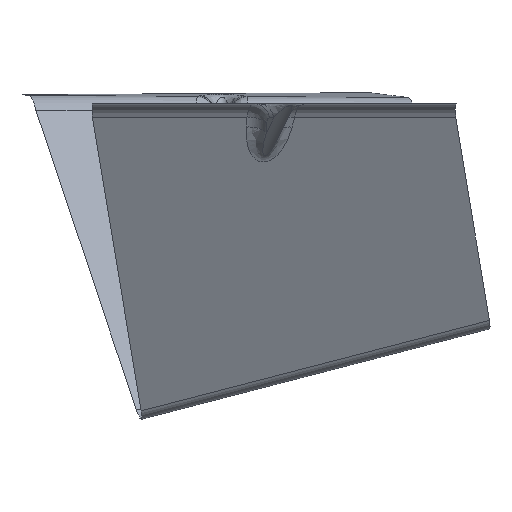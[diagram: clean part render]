
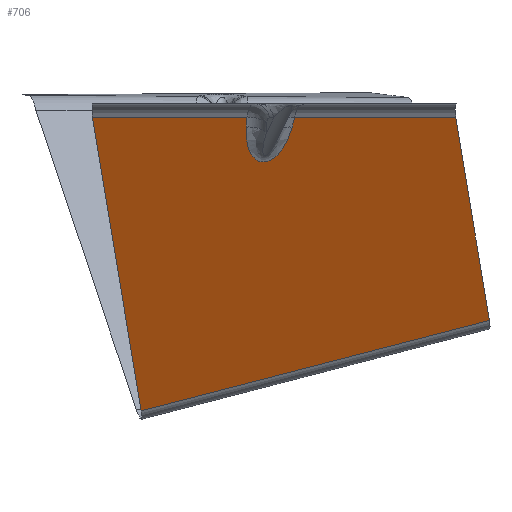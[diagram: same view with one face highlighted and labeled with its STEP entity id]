
A CAD part, left-side view. The second image highlights one B-rep face of the part: STEP entity #706.
In plain terms, the highlighted planar face has unit normal (-0.83, -0.249, -0.5).
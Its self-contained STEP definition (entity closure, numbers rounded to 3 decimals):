
#251=CARTESIAN_POINT('Vertex',(-90.625,7.583,-1.15)) ;
#274=CARTESIAN_POINT('Line Origine',(-72.203,9.747,-32.789)) ;
#278=CARTESIAN_POINT('Vertex',(-89.081,7.764,-3.801)) ;
#591=CARTESIAN_POINT('Control Point',(-85.289,-4.876,-3.801)) ;
#592=CARTESIAN_POINT('Control Point',(-85.077,-4.769,-4.206)) ;
#593=CARTESIAN_POINT('Control Point',(-84.868,-4.652,-4.611)) ;
#594=CARTESIAN_POINT('Control Point',(-84.663,-4.525,-5.016)) ;
#595=CARTESIAN_POINT('Control Point',(-84.084,-4.129,-6.173)) ;
#596=CARTESIAN_POINT('Control Point',(-83.538,-3.64,-7.321)) ;
#597=CARTESIAN_POINT('Control Point',(-83.201,-3.281,-8.059)) ;
#598=CARTESIAN_POINT('Control Point',(-82.75,-2.701,-9.097)) ;
#599=CARTESIAN_POINT('Control Point',(-82.355,-1.994,-10.103)) ;
#600=CARTESIAN_POINT('Control Point',(-82.245,-1.775,-10.396)) ;
#601=CARTESIAN_POINT('Control Point',(-82.055,-1.348,-10.923)) ;
#602=CARTESIAN_POINT('Control Point',(-81.893,-0.87,-11.43)) ;
#603=CARTESIAN_POINT('Control Point',(-81.826,-0.641,-11.655)) ;
#604=CARTESIAN_POINT('Control Point',(-81.72,-0.207,-12.046)) ;
#605=CARTESIAN_POINT('Control Point',(-81.647,0.276,-12.409)) ;
#606=CARTESIAN_POINT('Control Point',(-81.622,0.501,-12.562)) ;
#607=CARTESIAN_POINT('Control Point',(-81.587,1.013,-12.874)) ;
#608=CARTESIAN_POINT('Control Point',(-81.606,1.584,-13.128)) ;
#609=CARTESIAN_POINT('Control Point',(-81.635,1.913,-13.243)) ;
#610=CARTESIAN_POINT('Control Point',(-81.724,2.48,-13.376)) ;
#611=CARTESIAN_POINT('Control Point',(-81.882,3.056,-13.402)) ;
#612=CARTESIAN_POINT('Control Point',(-81.955,3.282,-13.393)) ;
#613=CARTESIAN_POINT('Control Point',(-82.179,3.881,-13.32)) ;
#614=CARTESIAN_POINT('Control Point',(-82.454,4.415,-13.129)) ;
#615=CARTESIAN_POINT('Control Point',(-82.64,4.719,-12.972)) ;
#616=CARTESIAN_POINT('Control Point',(-82.968,5.19,-12.662)) ;
#617=CARTESIAN_POINT('Control Point',(-83.303,5.582,-12.3)) ;
#618=CARTESIAN_POINT('Control Point',(-83.447,5.736,-12.14)) ;
#619=CARTESIAN_POINT('Control Point',(-83.772,6.061,-11.762)) ;
#620=CARTESIAN_POINT('Control Point',(-84.094,6.334,-11.362)) ;
#621=CARTESIAN_POINT('Control Point',(-84.274,6.473,-11.134)) ;
#622=CARTESIAN_POINT('Control Point',(-84.679,6.761,-10.605)) ;
#623=CARTESIAN_POINT('Control Point',(-85.078,6.993,-10.059)) ;
#624=CARTESIAN_POINT('Control Point',(-85.299,7.108,-9.749)) ;
#625=CARTESIAN_POINT('Control Point',(-85.791,7.337,-9.047)) ;
#626=CARTESIAN_POINT('Control Point',(-86.273,7.505,-8.332)) ;
#627=CARTESIAN_POINT('Control Point',(-86.537,7.583,-7.931)) ;
#628=CARTESIAN_POINT('Control Point',(-87.224,7.747,-6.874)) ;
#629=CARTESIAN_POINT('Control Point',(-87.89,7.816,-5.804)) ;
#630=CARTESIAN_POINT('Control Point',(-88.295,7.828,-5.138)) ;
#631=CARTESIAN_POINT('Control Point',(-88.692,7.81,-4.47)) ;
#632=CARTESIAN_POINT('Control Point',(-89.081,7.764,-3.801)) ;
#633=CARTESIAN_POINT('Vertex',(-85.289,-4.876,-3.801)) ;
#651=CARTESIAN_POINT('Axis2P3D Location',(-40.373,-12.112,-74.717)) ;
#656=CARTESIAN_POINT('Line Origine',(-85.984,-5.225,-2.476)) ;
#660=CARTESIAN_POINT('Vertex',(-86.678,-5.574,-1.15)) ;
#663=CARTESIAN_POINT('Line Origine',(-97.001,28.838,-1.15)) ;
#667=CARTESIAN_POINT('Vertex',(-103.378,50.093,-1.15)) ;
#670=CARTESIAN_POINT('Line Origine',(-77.033,43.395,-41.523)) ;
#674=CARTESIAN_POINT('Vertex',(-50.688,36.697,-81.896)) ;
#677=CARTESIAN_POINT('Line Origine',(-43.807,-11.239,-69.454)) ;
#681=CARTESIAN_POINT('Vertex',(-36.926,-59.174,-57.011)) ;
#684=CARTESIAN_POINT('Line Origine',(-55.152,-54.541,-29.081)) ;
#688=CARTESIAN_POINT('Vertex',(-73.378,-49.907,-1.15)) ;
#691=CARTESIAN_POINT('Line Origine',(-80.028,-27.74,-1.15)) ;
#275=DIRECTION('Vector Direction',(0.502,0.059,-0.863)) ;
#652=DIRECTION('Axis2P3D Direction',(0.83,0.249,0.5)) ;
#653=DIRECTION('Axis2P3D XDirection',(0.541,-0.138,-0.83)) ;
#657=DIRECTION('Vector Direction',(-0.452,-0.227,0.863)) ;
#664=DIRECTION('Vector Direction',(0.287,-0.958,0.)) ;
#671=DIRECTION('Vector Direction',(0.541,-0.138,-0.83)) ;
#678=DIRECTION('Vector Direction',(0.138,-0.959,0.249)) ;
#685=DIRECTION('Vector Direction',(-0.541,0.138,0.83)) ;
#692=DIRECTION('Vector Direction',(0.287,-0.958,0.)) ;
#654=AXIS2_PLACEMENT_3D('Plane Axis2P3D',#651,#652,#653) ;
#697=ORIENTED_EDGE('',*,*,#662,.T.) ;
#698=ORIENTED_EDGE('',*,*,#635,.T.) ;
#699=ORIENTED_EDGE('',*,*,#280,.T.) ;
#700=ORIENTED_EDGE('',*,*,#669,.F.) ;
#701=ORIENTED_EDGE('',*,*,#676,.T.) ;
#702=ORIENTED_EDGE('',*,*,#683,.T.) ;
#703=ORIENTED_EDGE('',*,*,#690,.T.) ;
#704=ORIENTED_EDGE('',*,*,#695,.F.) ;
#276=VECTOR('Line Direction',#275,1.) ;
#658=VECTOR('Line Direction',#657,1.) ;
#665=VECTOR('Line Direction',#664,1.) ;
#672=VECTOR('Line Direction',#671,1.) ;
#679=VECTOR('Line Direction',#678,1.) ;
#686=VECTOR('Line Direction',#685,1.) ;
#693=VECTOR('Line Direction',#692,1.) ;
#706=ADVANCED_FACE('Extract.1',(#705),#655,.F.) ;
#590=B_SPLINE_CURVE_WITH_KNOTS('',5,(#591,#592,#593,#594,#595,#596,#597,#598,#599,#600,#601,#602,#603,#604,#605,#606,#607,#608,#609,#610,#611,#612,#613,#614,#615,#616,#617,#618,#619,#620,#621,#622,#623,#624,#625,#626,#627,#628,#629,#630,#631,#632),.UNSPECIFIED.,.F.,.U.,(6,3,3,3,3,3,3,3,3,3,3,3,3,6),(23.574,26.702,32.538,34.97,36.986,38.583,40.45,41.686,43.807,45.387,47.39,49.935,53.103,58.265),.UNSPECIFIED.) ;
#280=EDGE_CURVE('',#279,#252,#277,.F.) ;
#635=EDGE_CURVE('',#634,#279,#590,.T.) ;
#662=EDGE_CURVE('',#661,#634,#659,.F.) ;
#669=EDGE_CURVE('',#668,#252,#666,.T.) ;
#676=EDGE_CURVE('',#668,#675,#673,.T.) ;
#683=EDGE_CURVE('',#675,#682,#680,.T.) ;
#690=EDGE_CURVE('',#682,#689,#687,.T.) ;
#695=EDGE_CURVE('',#661,#689,#694,.T.) ;
#696=EDGE_LOOP('',(#697,#698,#699,#700,#701,#702,#703,#704)) ;
#705=FACE_OUTER_BOUND('',#696,.T.) ;
#277=LINE('Line',#274,#276) ;
#659=LINE('Line',#656,#658) ;
#666=LINE('Line',#663,#665) ;
#673=LINE('Line',#670,#672) ;
#680=LINE('Line',#677,#679) ;
#687=LINE('Line',#684,#686) ;
#694=LINE('Line',#691,#693) ;
#655=PLANE('',#654) ;
#252=VERTEX_POINT('',#251) ;
#279=VERTEX_POINT('',#278) ;
#634=VERTEX_POINT('',#633) ;
#661=VERTEX_POINT('',#660) ;
#668=VERTEX_POINT('',#667) ;
#675=VERTEX_POINT('',#674) ;
#682=VERTEX_POINT('',#681) ;
#689=VERTEX_POINT('',#688) ;
